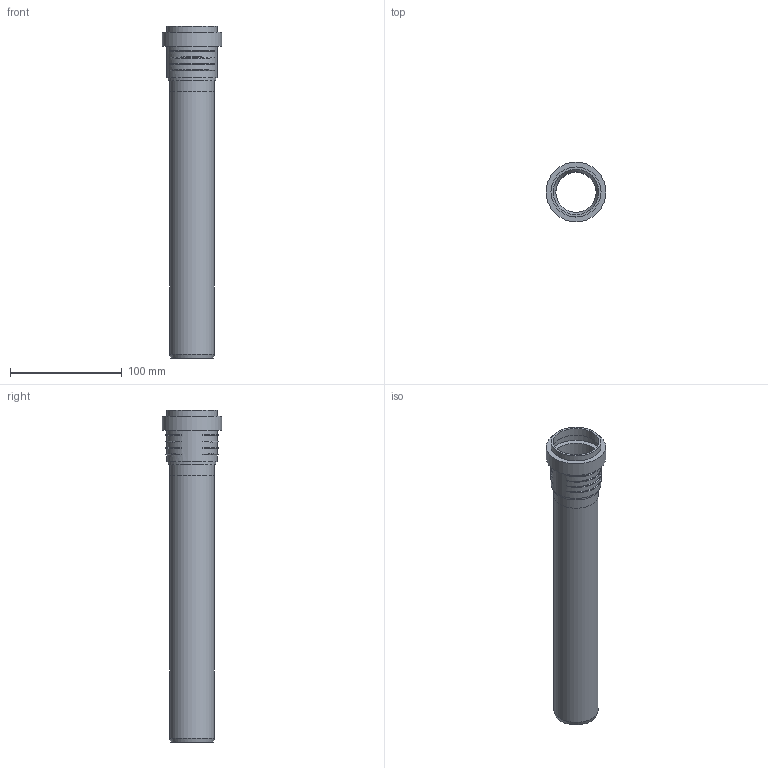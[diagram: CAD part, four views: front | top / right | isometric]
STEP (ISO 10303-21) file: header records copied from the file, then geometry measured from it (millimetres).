
FILE_DESCRIPTION(/* description */ (''),/* implementation_level */ '2;1');
FILE_NAME(/* name */ 'Z:\Geberit\Export\NewStep\390101.stp',/* time_stamp */ '2014-04-02T08:08:33+02:00',/* author */ ('ML'),/* organization */ (''),/* preprocessor_version */ 'ST-DEVELOPER v15.2',/* originating_system */ 'Autodesk Inventor 2014',/* authorisation */ '');
FILE_SCHEMA (('AUTOMOTIVE_DESIGN { 1 0 10303 214 3 1 1 }'));
Length unit declared in the file: millimetre
Products named in the file (3): 861411; 861581ohne; 390101
Bounding box: 53.5 x 53.5 x 297.3 mm (x, y, z)
Volume: 78519.5 mm3; surface area: 79791.6 mm2
Topology: 2 solids, 2 shells, 47 faces, 104 edges, 71 vertices
Faces by surface type: torus 24, cylinder 11, plane 10, cone 2
Full cylindrical faces by diameter (mm): 36.15 x2, 40.15 x2, 40.8 x2, 42.8 x1, 44.8 x2, 49.5 x1, 53.5 x1
Entity records: 2003 total; most frequent: CARTESIAN_POINT 962, DIRECTION 182, ORIENTED_EDGE 174, AXIS2_PLACEMENT_3D 91, EDGE_CURVE 87, EDGE_LOOP 78, VERTEX_POINT 71, STYLED_ITEM 49
